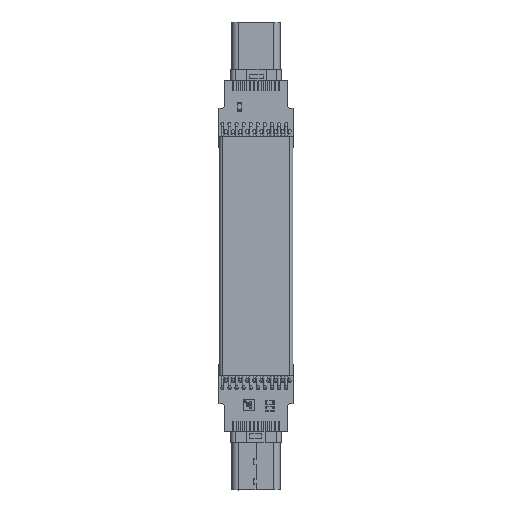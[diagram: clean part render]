
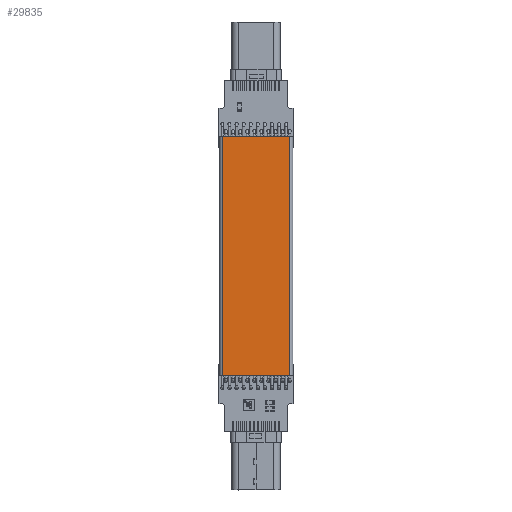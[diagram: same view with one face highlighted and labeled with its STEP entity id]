
A CAD part, top view. The second image highlights one B-rep face of the part: STEP entity #29835.
In plain terms, the highlighted planar face has unit normal (0, 0, 1) as drawn and (0, 1, 0) by its records, which use the part's own axes.
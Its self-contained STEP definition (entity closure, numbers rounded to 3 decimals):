
#29807 = VERTEX_POINT('',#29808);
#29808 = CARTESIAN_POINT('',(0.,0.,
    0.));
#29815 = EDGE_CURVE('',#29816,#29807,#29818,.T.);
#29816 = VERTEX_POINT('',#29817);
#29817 = CARTESIAN_POINT('',(0.,0.,
    -43.));
#29818 = LINE('',#29819,#29820);
#29819 = CARTESIAN_POINT('',(0.,0.,
    -43.));
#29820 = VECTOR('',#29821,1.);
#29821 = DIRECTION('',(0.,0.,1.));
#29835 = ADVANCED_FACE('',(#29836),#29861,.T.);
#29836 = FACE_BOUND('',#29837,.T.);
#29837 = EDGE_LOOP('',(#29838,#29846,#29854,#29860));
#29838 = ORIENTED_EDGE('',*,*,#29839,.F.);
#29839 = EDGE_CURVE('',#29840,#29807,#29842,.T.);
#29840 = VERTEX_POINT('',#29841);
#29841 = CARTESIAN_POINT('',(12.065,0.,0.
    ));
#29842 = LINE('',#29843,#29844);
#29843 = CARTESIAN_POINT('',(0.,0.,
    0.));
#29844 = VECTOR('',#29845,1.);
#29845 = DIRECTION('',(-1.,0.,0.));
#29846 = ORIENTED_EDGE('',*,*,#29847,.F.);
#29847 = EDGE_CURVE('',#29848,#29840,#29850,.T.);
#29848 = VERTEX_POINT('',#29849);
#29849 = CARTESIAN_POINT('',(12.065,0.,-43.));
#29850 = LINE('',#29851,#29852);
#29851 = CARTESIAN_POINT('',(12.065,0.,-43.));
#29852 = VECTOR('',#29853,1.);
#29853 = DIRECTION('',(0.,0.,1.));
#29854 = ORIENTED_EDGE('',*,*,#29855,.T.);
#29855 = EDGE_CURVE('',#29848,#29816,#29856,.T.);
#29856 = LINE('',#29857,#29858);
#29857 = CARTESIAN_POINT('',(0.,0.,
    -43.));
#29858 = VECTOR('',#29859,1.);
#29859 = DIRECTION('',(-1.,0.,0.));
#29860 = ORIENTED_EDGE('',*,*,#29815,.T.);
#29861 = PLANE('',#29862);
#29862 = AXIS2_PLACEMENT_3D('',#29863,#29864,#29865);
#29863 = CARTESIAN_POINT('',(0.,0.,
    -43.));
#29864 = DIRECTION('',(0.,1.,0.));
#29865 = DIRECTION('',(0.,0.,1.));
